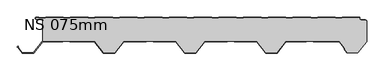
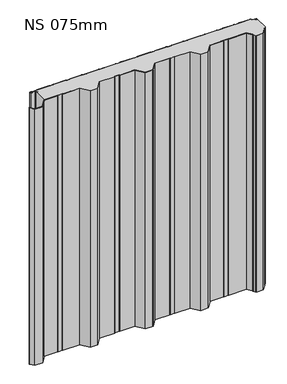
"""IFC4 building model written with IfcOpenShell, lengths in millimetres: plate geometry, KIP-MEX-KC-R19-CP-NS-SL : NS 075mm."""

from ifc_helpers import new_model, si_unit, point, frame, frame_2d, origin, origin_with_axes, place, context, project, spatial, polyline, circle_curve, trimmed, segment, composite_curve, outline, extrude, source, transform, mapped, element, save
from ifc_brep_helpers import plane_surface, cylinder_surface, revolved_surface, advanced_brep


def ns_075mm_65611ee8(model_context):
    return source(origin(), model_context, "Body", "SolidModel", [
        advanced_brep(
        [(489.051258, -85.0327477, 1224.3718713), (491.4166419, -80.6292245, 1224.3718713), (492.2982989, -81.1011177, 1224.3718713), (489.8911639, -85.5823669, 1224.3718713), (498.3652789, -74.7971296, 1224.3718713), (498.3666923, -11.2514375, 1224.3718713), (496.0840542, -13.6351997, 1224.3718713), (490.2938452, -14.1562355, 1224.3718713), (490.2059002, -13.178913, 1224.3718713), (495.9395891, -12.6629632, 1224.3718713), (497.3642752, -10.8760369, 1224.3718713), (495.9342793, -8.8936988, 1224.3718713), (479.8720443, -7.4885937, 1224.3718713), (477.1334803, -4.5000049, 1224.3718713), (477.1334803, -1.0, 1224.3718713), (424.1786391, -1.0, 1224.3718713), (422.7930062, -2.2002307, 1224.3718713), (403.4178399, -2.2002307, 1224.3718713), (402.0322069, -1.0, 1224.3718713), (347.9787915, -1.0, 1224.3718713), (346.5931586, -2.2002307, 1224.3718713), (327.2179923, -2.2002307, 1224.3718713), (325.8323593, -1.0, 1224.3718713), (271.7789439, -1.0, 1224.3718713), (270.393311, -2.2002307, 1224.3718713), (251.0181447, -2.2002307, 1224.3718713), (249.6325117, -1.0, 1224.3718713), (195.5790963, -1.0, 1224.3718713), (194.1934634, -2.2002307, 1224.3718713), (174.8182971, -2.2002307, 1224.3718713), (173.4326641, -1.0, 1224.3718713), (119.3792487, -1.0, 1224.3718713), (117.9936158, -2.2002307, 1224.3718713), (98.6184495, -2.2002307, 1224.3718713), (97.2328165, -1.0, 1224.3718713), (43.1794011, -1.0, 1224.3718713), (41.7937682, -2.2002307, 1224.3718713), (22.4186019, -2.2002307, 1224.3718713), (21.0329689, -1.0, 1224.3718713), (-33.0204465, -1.0, 1224.3718713), (-34.4060794, -2.2002307, 1224.3718713), (-53.7812457, -2.2002307, 1224.3718713), (-55.1668787, -1.0, 1224.3718713), (-109.2202941, -1.0, 1224.3718713), (-110.605927, -2.2002307, 1224.3718713), (-129.9810933, -2.2002307, 1224.3718713), (-131.3667263, -1.0, 1224.3718713), (-185.4201417, -1.0, 1224.3718713), (-186.8057746, -2.2002307, 1224.3718713), (-206.1809409, -2.2002307, 1224.3718713), (-207.5665739, -1.0, 1224.3718713), (-261.6199893, -1.0, 1224.3718713), (-263.0056222, -2.2002307, 1224.3718713), (-282.3807885, -2.2002307, 1224.3718713), (-283.7664215, -1.0, 1224.3718713), (-337.8198369, -1.0, 1224.3718713), (-339.2054698, -2.2002307, 1224.3718713), (-358.5806361, -2.2002307, 1224.3718713), (-359.9662691, -1.0, 1224.3718713), (-414.0196845, -1.0, 1224.3718713), (-415.4053174, -2.2002307, 1224.3718713), (-434.7804837, -2.2002307, 1224.3718713), (-436.1661167, -1.0, 1224.3718713), (-490.2195321, -1.0, 1224.3718713), (-491.605165, -2.2002307, 1224.3718713), (-510.9803313, -2.2002307, 1224.3718713), (-512.365974, -0.9999916, 1224.3718713), (-520.8675386, -0.9999916, 1224.3718713), (-520.8675386, -2.4999198, 1224.3718713), (-518.3676343, -4.9998241, 1224.3718713), (-500.3670493, -4.9998241, 1224.3718713), (-497.3666912, -7.998082, 1224.3718713), (-497.3666912, -11.5943952, 1224.3718713), (-496.1253972, -13.0725686, 1224.3718713), (-492.5830624, -13.6943971, 1224.3718713), (-492.7559608, -14.6793372, 1224.3718713), (-496.2982963, -14.0575086, 1224.3718713), (-498.3666923, -11.5958694, 1224.3718713), (-498.3666923, -74.0, 1224.3718713), (-437.8440582, -74.0, 1224.3718713), (-436.4297751, -72.9999989, 1224.3718713), (-417.2222535, -72.9999989, 1224.3718713), (-415.8079704, -74.0, 1224.3718713), (-339.3089934, -74.0, 1224.3718713), (-311.8089635, -109.000038, 1224.3718713), (-277.7809961, -109.000038, 1224.3718713), (-250.2809663, -74.0, 1224.3718713), (-180.8128881, -74.0, 1224.3718713), (-179.398605, -72.9999989, 1224.3718713), (-160.1910833, -72.9999989, 1224.3718713), (-158.7768003, -74.0, 1224.3718713), (-89.3087221, -74.0, 1224.3718713), (-61.8086922, -109.000038, 1224.3718713), (-27.7807248, -109.000038, 1224.3718713), (-0.280695, -74.0, 1224.3718713), (69.1090864, -74.0, 1224.3718713), (70.1732653, -72.9999989, 1224.3718713), (89.809188, -72.9999989, 1224.3718713), (91.2234711, -74.0, 1224.3718713), (160.6915492, -74.0, 1224.3718713), (188.1915791, -109.000038, 1224.3718713), (222.2195465, -109.000038, 1224.3718713), (249.7195763, -74.0, 1224.3718713), (312.1567557, -74.0, 1224.3718713), (313.5710388, -72.9999989, 1224.3718713), (332.7785605, -72.9999989, 1224.3718713), (334.1928435, -74.0, 1224.3718713), (414.6918249, -74.0, 1224.3718713), (430.7058064, -94.3814311, 1224.3718713), (430.7058064, -98.199617, 1224.3718713), (438.4061363, -108.0000369, 1224.3718713), (471.0055308, -108.0000369, 1224.3718713), (489.051258, -85.0327477, 0.0), (471.0055308, -108.0000369, 0.0), (438.4061363, -108.0000369, 0.0), (430.7058064, -98.199617, 0.0), (430.7058064, -94.3814311, 0.0), (414.6918249, -74.0, 0.0), (334.1928435, -74.0, 0.0), (332.7785605, -72.9999989, 0.0), (313.5710388, -72.9999989, 0.0), (312.1567557, -74.0, 0.0), (249.7195763, -74.0, 0.0), (222.2195465, -109.000038, 0.0), (188.1915791, -109.000038, 0.0), (160.6915492, -74.0, 0.0), (91.2234711, -74.0, 0.0), (89.809188, -72.9999989, 0.0), (70.1732653, -72.9999989, 0.0), (69.1090864, -74.0, 0.0), (-0.280695, -74.0, 0.0), (-27.7807248, -109.000038, 0.0), (-61.8086922, -109.000038, 0.0), (-89.3087221, -74.0, 0.0), (-158.7768003, -74.0, 0.0), (-160.1910833, -72.9999989, 0.0), (-179.398605, -72.9999989, 0.0), (-180.8128881, -74.0, 0.0), (-250.2809663, -74.0, 0.0), (-277.7809961, -109.000038, 0.0), (-311.8089635, -109.000038, 0.0), (-339.3089934, -74.0, 0.0), (-415.8079704, -74.0, 0.0), (-417.2222535, -72.9999989, 0.0), (-436.4297751, -72.9999989, 0.0), (-437.8440582, -74.0, 0.0), (-498.3666923, -74.0, 0.0), (-498.3666923, -11.5958694, 0.0), (-496.2982963, -14.0575086, 0.0), (-492.7559608, -14.6793372, 0.0), (-492.5830624, -13.6943971, 0.0), (-496.1253972, -13.0725686, 0.0), (-497.3666912, -11.5943952, 0.0), (-497.3666912, -7.998082, 0.0), (-500.3670493, -4.9998241, 0.0), (-518.3676343, -4.9998241, 0.0), (-520.8675386, -2.4999198, 0.0), (-520.8675386, -0.9999916, 0.0), (-512.365974, -0.9999916, 0.0), (-510.9803313, -2.2002307, 0.0), (-491.605165, -2.2002307, 0.0), (-490.2195321, -1.0, 0.0), (-436.1661167, -1.0, 0.0), (-434.7804837, -2.2002307, 0.0), (-415.4053174, -2.2002307, 0.0), (-414.0196845, -1.0, 0.0), (-359.9662691, -1.0, 0.0), (-358.5806361, -2.2002307, 0.0), (-339.2054698, -2.2002307, 0.0), (-337.8198369, -1.0, 0.0), (-283.7664215, -1.0, 0.0), (-282.3807885, -2.2002307, 0.0), (-263.0056222, -2.2002307, 0.0), (-261.6199893, -1.0, 0.0), (-207.5665739, -1.0, 0.0), (-206.1809409, -2.2002307, 0.0), (-186.8057746, -2.2002307, 0.0), (-185.4201417, -1.0, 0.0), (-131.3667263, -1.0, 0.0), (-129.9810933, -2.2002307, 0.0), (-110.605927, -2.2002307, 0.0), (-109.2202941, -1.0, 0.0), (-55.1668787, -1.0, 0.0), (-53.7812457, -2.2002307, 0.0), (-34.4060794, -2.2002307, 0.0), (-33.0204465, -1.0, 0.0), (21.0329689, -1.0, 0.0), (22.4186019, -2.2002307, 0.0), (41.7937682, -2.2002307, 0.0), (43.1794011, -1.0, 0.0), (97.2328165, -1.0, 0.0), (98.6184495, -2.2002307, 0.0), (117.9936158, -2.2002307, 0.0), (119.3792487, -1.0, 0.0), (173.4326641, -1.0, 0.0), (174.8182971, -2.2002307, 0.0), (194.1934634, -2.2002307, 0.0), (195.5790963, -1.0, 0.0), (249.6325117, -1.0, 0.0), (251.0181447, -2.2002307, 0.0), (270.393311, -2.2002307, 0.0), (271.7789439, -1.0, 0.0), (325.8323593, -1.0, 0.0), (327.2179923, -2.2002307, 0.0), (346.5931586, -2.2002307, 0.0), (347.9787915, -1.0, 0.0), (402.0322069, -1.0, 0.0), (403.4178399, -2.2002307, 0.0), (422.7930062, -2.2002307, 0.0), (424.1786391, -1.0, 0.0), (477.1334803, -1.0, 0.0), (477.1334803, -4.5000049, 0.0), (479.8720443, -7.4885937, 0.0), (495.9342793, -8.8936988, 0.0), (497.3642752, -10.8760369, 0.0), (495.9395891, -12.6629632, 0.0), (490.2059002, -13.178913, 0.0), (490.2938452, -14.1562355, 0.0), (496.0840542, -13.6351997, 0.0), (498.3666923, -11.2514375, 0.0), (498.3652789, -74.7971296, 0.0), (489.8911639, -85.5823669, 0.0), (492.2982989, -81.1011177, 0.0), (491.4166419, -80.6292245, 0.0)],
        [
            (0, 1),
            (1, 2),
            (2, 3),
            (3, 4),
            (4, 5),
            (5, 6, circle_curve(frame((495.5554081, -10.8441969, 1224.3718713), z_axis=(0.0, 0.0, -1.0), x_axis=(0.0, -1.0, 0.0)), 2.8406273)),
            (6, 7),
            (7, 8),
            (8, 9),
            (9, 10, circle_curve(frame((495.560247, -10.8991179, 1224.3718713), z_axis=(0.0, 0.0, 1.0), x_axis=(0.0, -1.0, 0.0)), 1.8041759)),
            (10, 11, circle_curve(frame((495.5292107, -10.6928483, 1224.3718713), z_axis=(0.0, 0.0, 1.0), x_axis=(0.0, -1.0, 0.0)), 1.8441854)),
            (11, 12),
            (12, 13, circle_curve(frame((480.1334825, -4.5000049, 1224.3718713), z_axis=(0.0, 0.0, -1.0), x_axis=(0.0, -1.0, 0.0)), 3.0000022)),
            (13, 14),
            (14, 15),
            (15, 16),
            (16, 17),
            (17, 18),
            (18, 19),
            (19, 20),
            (20, 21),
            (21, 22),
            (22, 23),
            (23, 24),
            (24, 25),
            (25, 26),
            (26, 27),
            (27, 28),
            (28, 29),
            (29, 30),
            (30, 31),
            (31, 32),
            (32, 33),
            (33, 34),
            (34, 35),
            (35, 36),
            (36, 37),
            (37, 38),
            (38, 39),
            (39, 40),
            (40, 41),
            (41, 42),
            (42, 43),
            (43, 44),
            (44, 45),
            (45, 46),
            (46, 47),
            (47, 48),
            (48, 49),
            (49, 50),
            (50, 51),
            (51, 52),
            (52, 53),
            (53, 54),
            (54, 55),
            (55, 56),
            (56, 57),
            (57, 58),
            (58, 59),
            (59, 60),
            (60, 61),
            (61, 62),
            (62, 63),
            (63, 64),
            (64, 65),
            (65, 66),
            (66, 67),
            (67, 68),
            (68, 69, circle_curve(frame((-518.3676343, -2.4999198, 1224.3718713), z_axis=(0.0, 0.0, 1.0), x_axis=(0.0, -1.0, 0.0)), 2.4999043)),
            (69, 70),
            (70, 71, circle_curve(frame((-500.3670493, -8.0001829, 1224.3718713), z_axis=(0.0, 0.0, -1.0), x_axis=(0.0, -1.0, 0.0)), 3.0003589)),
            (71, 72),
            (72, 73, circle_curve(frame((-495.8659157, -11.5943952, 1224.3718713), z_axis=(0.0, 0.0, 1.0), x_axis=(0.0, -1.0, 0.0)), 1.5007755)),
            (73, 74),
            (74, 75),
            (75, 76),
            (76, 77, circle_curve(frame((-495.8659164, -11.5943948, 1224.3718713), z_axis=(0.0, 0.0, -1.0), x_axis=(0.0, -1.0, 0.0)), 2.5007762)),
            (77, 78),
            (78, 79),
            (79, 80),
            (80, 81),
            (81, 82),
            (82, 83),
            (83, 84),
            (84, 85),
            (85, 86),
            (86, 87),
            (87, 88),
            (88, 89),
            (89, 90),
            (90, 91),
            (91, 92),
            (92, 93),
            (93, 94),
            (94, 95),
            (95, 96),
            (96, 97),
            (97, 98),
            (98, 99),
            (99, 100),
            (100, 101),
            (101, 102),
            (102, 103),
            (103, 104),
            (104, 105),
            (105, 106),
            (106, 107),
            (107, 108),
            (108, 109),
            (109, 110),
            (110, 111),
            (111, 0),
            (112, 113),
            (113, 114),
            (114, 115),
            (115, 116),
            (116, 117),
            (117, 118),
            (118, 119),
            (119, 120),
            (120, 121),
            (121, 122),
            (122, 123),
            (123, 124),
            (124, 125),
            (125, 126),
            (126, 127),
            (127, 128),
            (128, 129),
            (129, 130),
            (130, 131),
            (131, 132),
            (132, 133),
            (133, 134),
            (134, 135),
            (135, 136),
            (136, 137),
            (137, 138),
            (138, 139),
            (139, 140),
            (140, 141),
            (141, 142),
            (142, 143),
            (143, 144),
            (144, 145),
            (145, 146),
            (146, 147),
            (147, 148, circle_curve(frame((-495.8659164, -11.5943948, 0.0), z_axis=(0.0, 0.0, 1.0), x_axis=(0.0, -1.0, 0.0)), 2.5007762)),
            (148, 149),
            (149, 150),
            (150, 151),
            (151, 152, circle_curve(frame((-495.8659157, -11.5943952, 0.0), z_axis=(0.0, 0.0, -1.0), x_axis=(0.0, -1.0, 0.0)), 1.5007755)),
            (152, 153),
            (153, 154, circle_curve(frame((-500.3670493, -8.0001829, 0.0), z_axis=(0.0, 0.0, 1.0), x_axis=(0.0, -1.0, 0.0)), 3.0003589)),
            (154, 155),
            (155, 156, circle_curve(frame((-518.3676343, -2.4999198, 0.0), z_axis=(0.0, 0.0, -1.0), x_axis=(0.0, -1.0, 0.0)), 2.4999043)),
            (156, 157),
            (157, 158),
            (158, 159),
            (159, 160),
            (160, 161),
            (161, 162),
            (162, 163),
            (163, 164),
            (164, 165),
            (165, 166),
            (166, 167),
            (167, 168),
            (168, 169),
            (169, 170),
            (170, 171),
            (171, 172),
            (172, 173),
            (173, 174),
            (174, 175),
            (175, 176),
            (176, 177),
            (177, 178),
            (178, 179),
            (179, 180),
            (180, 181),
            (181, 182),
            (182, 183),
            (183, 184),
            (184, 185),
            (185, 186),
            (186, 187),
            (187, 188),
            (188, 189),
            (189, 190),
            (190, 191),
            (191, 192),
            (192, 193),
            (193, 194),
            (194, 195),
            (195, 196),
            (196, 197),
            (197, 198),
            (198, 199),
            (199, 200),
            (200, 201),
            (201, 202),
            (202, 203),
            (203, 204),
            (204, 205),
            (205, 206),
            (206, 207),
            (207, 208),
            (208, 209),
            (209, 210),
            (210, 211),
            (211, 212, circle_curve(frame((480.1334825, -4.5000049, 0.0), z_axis=(0.0, 0.0, 1.0), x_axis=(0.0, -1.0, 0.0)), 3.0000022)),
            (212, 213),
            (213, 214, circle_curve(frame((495.5292107, -10.6928483, 0.0), z_axis=(0.0, 0.0, -1.0), x_axis=(0.0, -1.0, 0.0)), 1.8441854)),
            (214, 215, circle_curve(frame((495.560247, -10.8991179, 0.0), z_axis=(0.0, 0.0, -1.0), x_axis=(0.0, -1.0, 0.0)), 1.8041759)),
            (215, 216),
            (216, 217),
            (217, 218),
            (218, 219, circle_curve(frame((495.5554081, -10.8441969, 0.0), z_axis=(0.0, 0.0, 1.0), x_axis=(0.0, -1.0, 0.0)), 2.8406273)),
            (219, 220),
            (220, 221),
            (221, 222),
            (222, 223),
            (223, 112),
            (0, 112),
            (223, 1),
            (111, 113),
            (110, 114),
            (109, 115),
            (108, 116),
            (107, 117),
            (106, 118),
            (105, 119),
            (104, 120),
            (103, 121),
            (102, 122),
            (101, 123),
            (100, 124),
            (99, 125),
            (98, 126),
            (97, 127),
            (96, 128),
            (95, 129),
            (94, 130),
            (93, 131),
            (92, 132),
            (91, 133),
            (90, 134),
            (89, 135),
            (88, 136),
            (87, 137),
            (86, 138),
            (85, 139),
            (84, 140),
            (83, 141),
            (82, 142),
            (81, 143),
            (80, 144),
            (79, 145),
            (78, 146),
            (2, 222),
            (221, 3),
            (220, 4),
            (219, 5),
            (77, 147),
            (73, 151),
            (150, 74),
            (72, 152),
            (71, 153),
            (70, 154),
            (69, 155),
            (68, 156),
            (67, 157),
            (13, 211),
            (210, 14),
            (12, 212),
            (11, 213),
            (10, 214),
            (9, 215),
            (8, 216),
            (7, 217),
            (6, 218),
            (76, 148),
            (75, 149),
            (66, 158),
            (65, 159),
            (64, 160),
            (63, 161),
            (62, 162),
            (61, 163),
            (60, 164),
            (59, 165),
            (58, 166),
            (57, 167),
            (56, 168),
            (55, 169),
            (54, 170),
            (53, 171),
            (52, 172),
            (51, 173),
            (50, 174),
            (49, 175),
            (48, 176),
            (47, 177),
            (46, 178),
            (45, 179),
            (44, 180),
            (43, 181),
            (42, 182),
            (41, 183),
            (40, 184),
            (39, 185),
            (38, 186),
            (37, 187),
            (36, 188),
            (35, 189),
            (34, 190),
            (33, 191),
            (32, 192),
            (31, 193),
            (30, 194),
            (29, 195),
            (28, 196),
            (27, 197),
            (26, 198),
            (25, 199),
            (24, 200),
            (23, 201),
            (22, 202),
            (21, 203),
            (20, 204),
            (19, 205),
            (18, 206),
            (17, 207),
            (16, 208),
            (15, 209),
        ],
        [
            plane_surface(frame((0.0, -74.0, 1224.3718713), z_axis=(0.0, 0.0, 1.0), x_axis=(0.0, -1.0, 0.0))),
            plane_surface(frame((0.0, -74.0, 0.0), z_axis=(0.0, 0.0, -1.0), x_axis=(0.0, -1.0, 0.0))),
            plane_surface(frame((491.4166419, -80.6292245, 1224.3718713), z_axis=(0.8809503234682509, -0.4732087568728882, 0.0), x_axis=(0.0, 0.0, -1.0))),
            plane_surface(frame((489.051258, -85.0327477, 1224.3718713), z_axis=(0.7863183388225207, -0.6178215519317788, 0.0), x_axis=(0.0, 0.0, -1.0))),
            plane_surface(frame((471.0055308, -108.0000369, 1224.3718713), z_axis=(0.0, -1.0, 0.0), x_axis=(0.0, 0.0, -1.0))),
            plane_surface(frame((438.4061363, -108.0000369, 1224.3718713), z_axis=(-0.7863183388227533, -0.6178215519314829, 0.0), x_axis=(0.0, 0.0, -1.0))),
            plane_surface(frame((430.7058064, -98.199617, 1224.3718713), z_axis=(-1.0, 0.0, 0.0), x_axis=(0.0, 0.0, -1.0))),
            plane_surface(frame((430.7058064, -94.3814311, 1224.3718713), z_axis=(-0.7863183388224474, -0.6178215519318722, 0.0), x_axis=(0.0, 0.0, -1.0))),
            plane_surface(frame((414.6918249, -74.0, 1224.3718713), z_axis=(0.0, -1.0, 0.0), x_axis=(0.0, 0.0, -1.0))),
            plane_surface(frame((334.1928435, -74.0, 1224.3718713), z_axis=(-0.5773317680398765, -0.8165096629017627, 0.0), x_axis=(0.0, 0.0, -1.0))),
            plane_surface(frame((332.7785605, -72.9999989, 1224.3718713), z_axis=(0.0, -1.0, 0.0), x_axis=(0.0, 0.0, -1.0))),
            plane_surface(frame((313.5710388, -72.9999989, 1224.3718713), z_axis=(0.5773317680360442, -0.8165096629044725, 0.0), x_axis=(0.0, 0.0, -1.0))),
            plane_surface(frame((312.1567557, -74.0, 1224.3718713), z_axis=(0.0, -1.0, 0.0), x_axis=(0.0, 0.0, -1.0))),
            plane_surface(frame((249.7195763, -74.0, 1224.3718713), z_axis=(0.7863183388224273, -0.6178215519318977, 0.0), x_axis=(0.0, 0.0, -1.0))),
            plane_surface(frame((222.2195465, -109.000038, 1224.3718713), z_axis=(0.0, -1.0, 0.0), x_axis=(0.0, 0.0, -1.0))),
            plane_surface(frame((188.1915791, -109.000038, 1224.3718713), z_axis=(-0.7863183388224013, -0.6178215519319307, 0.0), x_axis=(0.0, 0.0, -1.0))),
            plane_surface(frame((160.6915492, -74.0, 1224.3718713), z_axis=(0.0, -1.0, 0.0), x_axis=(0.0, 0.0, -1.0))),
            plane_surface(frame((91.2234711, -74.0, 1224.3718713), z_axis=(-0.5773317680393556, -0.8165096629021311, 0.0), x_axis=(0.0, 0.0, -1.0))),
            plane_surface(frame((89.809188, -72.9999989, 1224.3718713), z_axis=(0.0, -1.0, 0.0), x_axis=(0.0, 0.0, -1.0))),
            plane_surface(frame((70.1732653, -72.9999989, 1224.3718713), z_axis=(0.6847910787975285, -0.7287394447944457, 0.0), x_axis=(0.0, 0.0, -1.0))),
            plane_surface(frame((69.1090864, -74.0, 1224.3718713), z_axis=(0.0, -1.0, 0.0), x_axis=(0.0, 0.0, -1.0))),
            plane_surface(frame((-0.280695, -74.0, 1224.3718713), z_axis=(0.7863183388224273, -0.6178215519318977, 0.0), x_axis=(0.0, 0.0, -1.0))),
            plane_surface(frame((-27.7807248, -109.000038, 1224.3718713), z_axis=(0.0, -1.0, 0.0), x_axis=(0.0, 0.0, -1.0))),
            plane_surface(frame((-61.8086922, -109.000038, 1224.3718713), z_axis=(-0.786318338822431, -0.617821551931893, 0.0), x_axis=(0.0, 0.0, -1.0))),
            plane_surface(frame((-89.3087221, -74.0, 1224.3718713), z_axis=(0.0, -1.0, 0.0), x_axis=(0.0, 0.0, -1.0))),
            plane_surface(frame((-158.7768003, -74.0, 1224.3718713), z_axis=(-0.5773317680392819, -0.8165096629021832, 0.0), x_axis=(0.0, 0.0, -1.0))),
            plane_surface(frame((-160.1910833, -72.9999989, 1224.3718713), z_axis=(0.0, -1.0, 0.0), x_axis=(0.0, 0.0, -1.0))),
            plane_surface(frame((-179.398605, -72.9999989, 1224.3718713), z_axis=(0.577331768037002, -0.8165096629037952, 0.0), x_axis=(0.0, 0.0, -1.0))),
            plane_surface(frame((-180.8128881, -74.0, 1224.3718713), z_axis=(0.0, -1.0, 0.0), x_axis=(0.0, 0.0, -1.0))),
            plane_surface(frame((-250.2809663, -74.0, 1224.3718713), z_axis=(0.7863183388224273, -0.6178215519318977, 0.0), x_axis=(0.0, 0.0, -1.0))),
            plane_surface(frame((-277.7809961, -109.000038, 1224.3718713), z_axis=(0.0, -1.0, 0.0), x_axis=(0.0, 0.0, -1.0))),
            plane_surface(frame((-311.8089635, -109.000038, 1224.3718713), z_axis=(-0.7863183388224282, -0.6178215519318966, 0.0), x_axis=(0.0, 0.0, -1.0))),
            plane_surface(frame((-339.3089934, -74.0, 1224.3718713), z_axis=(0.0, -1.0, 0.0), x_axis=(0.0, 0.0, -1.0))),
            plane_surface(frame((-415.8079704, -74.0, 1224.3718713), z_axis=(-0.577331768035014, -0.8165096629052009, 0.0), x_axis=(0.0, 0.0, -1.0))),
            plane_surface(frame((-417.2222535, -72.9999989, 1224.3718713), z_axis=(0.0, -1.0, 0.0), x_axis=(0.0, 0.0, -1.0))),
            plane_surface(frame((-436.4297751, -72.9999989, 1224.3718713), z_axis=(0.577331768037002, -0.8165096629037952, 0.0), x_axis=(0.0, 0.0, -1.0))),
            plane_surface(frame((-437.8440582, -74.0, 1224.3718713), z_axis=(0.0, -1.0, 0.0), x_axis=(0.0, 0.0, -1.0))),
            plane_surface(frame((489.8911639, -85.5823669, 1224.3718713), z_axis=(-0.8809503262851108, 0.4732087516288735, 0.0), x_axis=(0.0, 0.0, -1.0))),
            plane_surface(frame((492.2982989, -81.1011177, 1224.3718713), z_axis=(-0.4718927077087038, -0.8816559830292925, 0.0), x_axis=(0.0, 0.0, -1.0))),
            plane_surface(frame((498.3652789, -74.7971296, 1224.3718713), z_axis=(0.7863183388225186, -0.6178215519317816, 0.0), x_axis=(0.0, 0.0, -1.0))),
            plane_surface(frame((498.3652789, -69.8065083, 1224.3718713), z_axis=(1.0, 0.0, 0.0), x_axis=(0.0, 0.0, -1.0))),
            plane_surface(frame((-498.3666923, -74.0, 1224.3718713), z_axis=(-1.0, 0.0, 0.0), x_axis=(0.0, 0.0, -1.0))),
            plane_surface(frame((-492.5830624, -13.6943971, 1224.3718713), z_axis=(-0.17289827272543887, -0.9849396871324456, 0.0), x_axis=(0.0, 0.0, -1.0))),
            cylinder_surface(frame((-495.8659157, -11.5943952, 1224.3718713), z_axis=(0.0, 0.0, 1.0), x_axis=(0.0, -1.0, 0.0)), 1.5007755),
            plane_surface(frame((-497.3666912, -11.5943952, 1224.3718713), z_axis=(-1.0, 0.0, 0.0), x_axis=(0.0, 0.0, -1.0))),
            revolved_surface(polyline([(-500.3670493, -11.0005418, 0.0), (-500.3670493, -11.0005418, 1224.3718713)]), (-500.3670493, -8.0001829, 1224.3718713), (0.0, 0.0, -1.0)),
            plane_surface(frame((-500.3670493, -4.9998241, 1224.3718713), z_axis=(0.0, -1.0, 0.0), x_axis=(0.0, 0.0, -1.0))),
            cylinder_surface(frame((-518.3676343, -2.4999198, 1224.3718713), z_axis=(0.0, 0.0, 1.0), x_axis=(0.0, -1.0, 0.0)), 2.4999043),
            plane_surface(frame((-520.8675386, -2.4999198, 1224.3718713), z_axis=(-1.0, 0.0, 0.0), x_axis=(0.0, 0.0, -1.0))),
            plane_surface(frame((477.1334803, -1.0, 1224.3718713), z_axis=(1.0, 0.0, 0.0), x_axis=(0.0, 0.0, -1.0))),
            revolved_surface(polyline([(480.1334825, -7.5000071, 0.0), (480.1334825, -7.5000071, 1224.3718713)]), (480.1334825, -4.5000049, 1224.3718713), (0.0, 0.0, -1.0)),
            plane_surface(frame((479.8720443, -7.4885937, 1224.3718713), z_axis=(0.0871459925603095, 0.9961955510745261, 0.0), x_axis=(0.0, 0.0, -1.0))),
            cylinder_surface(frame((495.5292107, -10.6928483, 1224.3718713), z_axis=(0.0, 0.0, 1.0), x_axis=(0.0, -1.0, 0.0)), 1.8441854),
            cylinder_surface(frame((495.560247, -10.8991179, 1224.3718713), z_axis=(0.0, 0.0, 1.0), x_axis=(0.0, -1.0, 0.0)), 1.8041759),
            plane_surface(frame((495.9395891, -12.6629632, 1224.3718713), z_axis=(0.0896235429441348, -0.995975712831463, 0.0), x_axis=(0.0, 0.0, -1.0))),
            plane_surface(frame((490.2059002, -13.178913, 1224.3718713), z_axis=(0.9959757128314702, 0.08962354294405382, 0.0), x_axis=(0.0, 0.0, -1.0))),
            plane_surface(frame((490.2938452, -14.1562355, 1224.3718713), z_axis=(-0.0896235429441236, 0.995975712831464, 0.0), x_axis=(0.0, 0.0, -1.0))),
            revolved_surface(polyline([(495.5554081, -13.6848242, 0.0), (495.5554081, -13.6848242, 1224.3718713)]), (495.5554081, -10.8441969, 1224.3718713), (0.0, 0.0, -1.0)),
            revolved_surface(polyline([(-495.8659164, -14.095171, 0.0), (-495.8659164, -14.095171, 1224.3718713)]), (-495.8659164, -11.5943948, 1224.3718713), (0.0, 0.0, -1.0)),
            plane_surface(frame((-496.2982963, -14.0575086, 1224.3718713), z_axis=(0.17289827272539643, 0.9849396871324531, 0.0), x_axis=(0.0, 0.0, -1.0))),
            plane_surface(frame((-492.7559608, -14.6793372, 1224.3718713), z_axis=(-0.9849396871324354, 0.1728982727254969, 0.0), x_axis=(0.0, 0.0, -1.0))),
            plane_surface(frame((-520.8675386, -0.9999916, 1224.3718713), z_axis=(0.0, 1.0, 0.0), x_axis=(0.0, 0.0, -1.0))),
            plane_surface(frame((-512.365974, -0.9999916, 1224.3718713), z_axis=(0.6547276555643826, 0.7558648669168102, 0.0), x_axis=(0.0, 0.0, -1.0))),
            plane_surface(frame((-510.9803313, -2.2002307, 1224.3718713), z_axis=(0.0, 1.0, 0.0), x_axis=(0.0, 0.0, -1.0))),
            plane_surface(frame((-491.605165, -2.2002307, 1224.3718713), z_axis=(-0.6547276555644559, 0.7558648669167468, 0.0), x_axis=(0.0, 0.0, -1.0))),
            plane_surface(frame((-490.2195321, -1.0, 1224.3718713), z_axis=(0.0, 1.0, 0.0), x_axis=(0.0, 0.0, -1.0))),
            plane_surface(frame((-436.1661167, -1.0, 1224.3718713), z_axis=(0.6547276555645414, 0.7558648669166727, 0.0), x_axis=(0.0, 0.0, -1.0))),
            plane_surface(frame((-434.7804837, -2.2002307, 1224.3718713), z_axis=(0.0, 1.0, 0.0), x_axis=(0.0, 0.0, -1.0))),
            plane_surface(frame((-415.4053174, -2.2002307, 1224.3718713), z_axis=(-0.6547276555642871, 0.755864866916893, 0.0), x_axis=(0.0, 0.0, -1.0))),
            plane_surface(frame((-414.0196845, -1.0, 1224.3718713), z_axis=(0.0, 1.0, 0.0), x_axis=(0.0, 0.0, -1.0))),
            plane_surface(frame((-359.9662691, -1.0, 1224.3718713), z_axis=(0.6547276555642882, 0.7558648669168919, 0.0), x_axis=(0.0, 0.0, -1.0))),
            plane_surface(frame((-358.5806361, -2.2002307, 1224.3718713), z_axis=(0.0, 1.0, 0.0), x_axis=(0.0, 0.0, -1.0))),
            plane_surface(frame((-339.2054698, -2.2002307, 1224.3718713), z_axis=(-0.6547276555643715, 0.7558648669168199, 0.0), x_axis=(0.0, 0.0, -1.0))),
            plane_surface(frame((-337.8198369, -1.0, 1224.3718713), z_axis=(0.0, 1.0, 0.0), x_axis=(0.0, 0.0, -1.0))),
            plane_surface(frame((-283.7664215, -1.0, 1224.3718713), z_axis=(0.6547276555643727, 0.7558648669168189, 0.0), x_axis=(0.0, 0.0, -1.0))),
            plane_surface(frame((-282.3807885, -2.2002307, 1224.3718713), z_axis=(0.0, 1.0, 0.0), x_axis=(0.0, 0.0, -1.0))),
            plane_surface(frame((-263.0056222, -2.2002307, 1224.3718713), z_axis=(-0.6547276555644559, 0.7558648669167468, 0.0), x_axis=(0.0, 0.0, -1.0))),
            plane_surface(frame((-261.6199893, -1.0, 1224.3718713), z_axis=(0.0, 1.0, 0.0), x_axis=(0.0, 0.0, -1.0))),
            plane_surface(frame((-207.5665739, -1.0, 1224.3718713), z_axis=(0.654727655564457, 0.7558648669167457, 0.0), x_axis=(0.0, 0.0, -1.0))),
            plane_surface(frame((-206.1809409, -2.2002307, 1224.3718713), z_axis=(0.0, 1.0, 0.0), x_axis=(0.0, 0.0, -1.0))),
            plane_surface(frame((-186.8057746, -2.2002307, 1224.3718713), z_axis=(-0.6547276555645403, 0.7558648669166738, 0.0), x_axis=(0.0, 0.0, -1.0))),
            plane_surface(frame((-185.4201417, -1.0, 1224.3718713), z_axis=(0.0, 1.0, 0.0), x_axis=(0.0, 0.0, -1.0))),
            plane_surface(frame((-131.3667263, -1.0, 1224.3718713), z_axis=(0.6547276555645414, 0.7558648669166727, 0.0), x_axis=(0.0, 0.0, -1.0))),
            plane_surface(frame((-129.9810933, -2.2002307, 1224.3718713), z_axis=(0.0, 1.0, 0.0), x_axis=(0.0, 0.0, -1.0))),
            plane_surface(frame((-110.605927, -2.2002307, 1224.3718713), z_axis=(-0.6547276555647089, 0.7558648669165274, 0.0), x_axis=(0.0, 0.0, -1.0))),
            plane_surface(frame((-109.2202941, -1.0, 1224.3718713), z_axis=(0.0, 1.0, 0.0), x_axis=(0.0, 0.0, -1.0))),
            plane_surface(frame((-55.1668787, -1.0, 1224.3718713), z_axis=(0.6547276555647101, 0.7558648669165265, 0.0), x_axis=(0.0, 0.0, -1.0))),
            plane_surface(frame((-53.7812457, -2.2002307, 1224.3718713), z_axis=(0.0, 1.0, 0.0), x_axis=(0.0, 0.0, -1.0))),
            plane_surface(frame((-34.4060794, -2.2002307, 1224.3718713), z_axis=(-0.6547276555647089, 0.7558648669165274, 0.0), x_axis=(0.0, 0.0, -1.0))),
            plane_surface(frame((-33.0204465, -1.0, 1224.3718713), z_axis=(0.0, 1.0, 0.0), x_axis=(0.0, 0.0, -1.0))),
            plane_surface(frame((21.0329689, -1.0, 1224.3718713), z_axis=(0.6547276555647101, 0.7558648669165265, 0.0), x_axis=(0.0, 0.0, -1.0))),
            plane_surface(frame((22.4186019, -2.2002307, 1224.3718713), z_axis=(0.0, 1.0, 0.0), x_axis=(0.0, 0.0, -1.0))),
            plane_surface(frame((41.7937682, -2.2002307, 1224.3718713), z_axis=(-0.6547276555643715, 0.7558648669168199, 0.0), x_axis=(0.0, 0.0, -1.0))),
            plane_surface(frame((43.1794011, -1.0, 1224.3718713), z_axis=(0.0, 1.0, 0.0), x_axis=(0.0, 0.0, -1.0))),
            plane_surface(frame((97.2328165, -1.0, 1224.3718713), z_axis=(0.6547276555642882, 0.7558648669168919, 0.0), x_axis=(0.0, 0.0, -1.0))),
            plane_surface(frame((98.6184495, -2.2002307, 1224.3718713), z_axis=(0.0, 1.0, 0.0), x_axis=(0.0, 0.0, -1.0))),
            plane_surface(frame((117.9936158, -2.2002307, 1224.3718713), z_axis=(-0.6547276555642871, 0.755864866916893, 0.0), x_axis=(0.0, 0.0, -1.0))),
            plane_surface(frame((119.3792487, -1.0, 1224.3718713), z_axis=(0.0, 1.0, 0.0), x_axis=(0.0, 0.0, -1.0))),
            plane_surface(frame((173.4326641, -1.0, 1224.3718713), z_axis=(0.6547276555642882, 0.7558648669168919, 0.0), x_axis=(0.0, 0.0, -1.0))),
            plane_surface(frame((174.8182971, -2.2002307, 1224.3718713), z_axis=(0.0, 1.0, 0.0), x_axis=(0.0, 0.0, -1.0))),
            plane_surface(frame((194.1934634, -2.2002307, 1224.3718713), z_axis=(-0.6547276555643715, 0.7558648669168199, 0.0), x_axis=(0.0, 0.0, -1.0))),
            plane_surface(frame((195.5790963, -1.0, 1224.3718713), z_axis=(0.0, 1.0, 0.0), x_axis=(0.0, 0.0, -1.0))),
            plane_surface(frame((249.6325117, -1.0, 1224.3718713), z_axis=(0.6547276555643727, 0.7558648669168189, 0.0), x_axis=(0.0, 0.0, -1.0))),
            plane_surface(frame((251.0181447, -2.2002307, 1224.3718713), z_axis=(0.0, 1.0, 0.0), x_axis=(0.0, 0.0, -1.0))),
            plane_surface(frame((270.393311, -2.2002307, 1224.3718713), z_axis=(-0.6547276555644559, 0.7558648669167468, 0.0), x_axis=(0.0, 0.0, -1.0))),
            plane_surface(frame((271.7789439, -1.0, 1224.3718713), z_axis=(0.0, 1.0, 0.0), x_axis=(0.0, 0.0, -1.0))),
            plane_surface(frame((325.8323593, -1.0, 1224.3718713), z_axis=(0.654727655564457, 0.7558648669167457, 0.0), x_axis=(0.0, 0.0, -1.0))),
            plane_surface(frame((327.2179923, -2.2002307, 1224.3718713), z_axis=(0.0, 1.0, 0.0), x_axis=(0.0, 0.0, -1.0))),
            plane_surface(frame((346.5931586, -2.2002307, 1224.3718713), z_axis=(-0.6547276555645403, 0.7558648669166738, 0.0), x_axis=(0.0, 0.0, -1.0))),
            plane_surface(frame((347.9787915, -1.0, 1224.3718713), z_axis=(0.0, 1.0, 0.0), x_axis=(0.0, 0.0, -1.0))),
            plane_surface(frame((402.0322069, -1.0, 1224.3718713), z_axis=(0.6547276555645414, 0.7558648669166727, 0.0), x_axis=(0.0, 0.0, -1.0))),
            plane_surface(frame((403.4178399, -2.2002307, 1224.3718713), z_axis=(0.0, 1.0, 0.0), x_axis=(0.0, 0.0, -1.0))),
            plane_surface(frame((422.7930062, -2.2002307, 1224.3718713), z_axis=(-0.6547276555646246, 0.7558648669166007, 0.0), x_axis=(0.0, 0.0, -1.0))),
            plane_surface(frame((424.1786391, -1.0, 1224.3718713), z_axis=(0.0, 1.0, 0.0), x_axis=(0.0, 0.0, -1.0))),
        ],
        [
            (0, [[1, 2, 3, 4, 5, 6, 7, 8, 9, 10, 11, 12, 13, 14, 15, 16, 17, 18, 19, 20, 21, 22, 23, 24, 25, 26, 27, 28, 29, 30, 31, 32, 33, 34, 35, 36, 37, 38, 39, 40, 41, 42, 43, 44, 45, 46, 47, 48, 49, 50, 51, 52, 53, 54, 55, 56, 57, 58, 59, 60, 61, 62, 63, 64, 65, 66, 67, 68, 69, 70, 71, 72, 73, 74, 75, 76, 77, 78, 79, 80, 81, 82, 83, 84, 85, 86, 87, 88, 89, 90, 91, 92, 93, 94, 95, 96, 97, 98, 99, 100, 101, 102, 103, 104, 105, 106, 107, 108, 109, 110, 111, 112]]),
            (1, [[113, 114, 115, 116, 117, 118, 119, 120, 121, 122, 123, 124, 125, 126, 127, 128, 129, 130, 131, 132, 133, 134, 135, 136, 137, 138, 139, 140, 141, 142, 143, 144, 145, 146, 147, 148, 149, 150, 151, 152, 153, 154, 155, 156, 157, 158, 159, 160, 161, 162, 163, 164, 165, 166, 167, 168, 169, 170, 171, 172, 173, 174, 175, 176, 177, 178, 179, 180, 181, 182, 183, 184, 185, 186, 187, 188, 189, 190, 191, 192, 193, 194, 195, 196, 197, 198, 199, 200, 201, 202, 203, 204, 205, 206, 207, 208, 209, 210, 211, 212, 213, 214, 215, 216, 217, 218, 219, 220, 221, 222, 223, 224]]),
            (2, [[225, -224, 226, -1]]),
            (3, [[227, -113, -225, -112]]),
            (4, [[228, -114, -227, -111]]),
            (5, [[229, -115, -228, -110]]),
            (6, [[230, -116, -229, -109]]),
            (7, [[231, -117, -230, -108]]),
            (8, [[232, -118, -231, -107]]),
            (9, [[233, -119, -232, -106]]),
            (10, [[234, -120, -233, -105]]),
            (11, [[235, -121, -234, -104]]),
            (12, [[236, -122, -235, -103]]),
            (13, [[237, -123, -236, -102]]),
            (14, [[238, -124, -237, -101]]),
            (15, [[239, -125, -238, -100]]),
            (16, [[240, -126, -239, -99]]),
            (17, [[241, -127, -240, -98]]),
            (18, [[242, -128, -241, -97]]),
            (19, [[243, -129, -242, -96]]),
            (20, [[244, -130, -243, -95]]),
            (21, [[245, -131, -244, -94]]),
            (22, [[246, -132, -245, -93]]),
            (23, [[247, -133, -246, -92]]),
            (24, [[248, -134, -247, -91]]),
            (25, [[249, -135, -248, -90]]),
            (26, [[250, -136, -249, -89]]),
            (27, [[251, -137, -250, -88]]),
            (28, [[252, -138, -251, -87]]),
            (29, [[253, -139, -252, -86]]),
            (30, [[254, -140, -253, -85]]),
            (31, [[255, -141, -254, -84]]),
            (32, [[256, -142, -255, -83]]),
            (33, [[257, -143, -256, -82]]),
            (34, [[258, -144, -257, -81]]),
            (35, [[259, -145, -258, -80]]),
            (36, [[260, -146, -259, -79]]),
            (37, [[261, -222, 262, -3]]),
            (38, [[-226, -223, -261, -2]]),
            (39, [[-262, -221, 263, -4]]),
            (40, [[-263, -220, 264, -5]]),
            (41, [[265, -147, -260, -78]]),
            (42, [[266, -151, 267, -74]]),
            (43, [[268, -152, -266, -73]]),
            (44, [[269, -153, -268, -72]]),
            (45, [[270, -154, -269, -71]]),
            (46, [[271, -155, -270, -70]]),
            (47, [[272, -156, -271, -69]]),
            (48, [[273, -157, -272, -68]]),
            (49, [[274, -211, 275, -14]]),
            (50, [[276, -212, -274, -13]]),
            (51, [[277, -213, -276, -12]]),
            (52, [[278, -214, -277, -11]]),
            (53, [[279, -215, -278, -10]]),
            (54, [[280, -216, -279, -9]]),
            (55, [[281, -217, -280, -8]]),
            (56, [[282, -218, -281, -7]]),
            (57, [[-264, -219, -282, -6]]),
            (58, [[283, -148, -265, -77]]),
            (59, [[284, -149, -283, -76]]),
            (60, [[-267, -150, -284, -75]]),
            (61, [[285, -158, -273, -67]]),
            (62, [[286, -159, -285, -66]]),
            (63, [[287, -160, -286, -65]]),
            (64, [[288, -161, -287, -64]]),
            (65, [[289, -162, -288, -63]]),
            (66, [[290, -163, -289, -62]]),
            (67, [[291, -164, -290, -61]]),
            (68, [[292, -165, -291, -60]]),
            (69, [[293, -166, -292, -59]]),
            (70, [[294, -167, -293, -58]]),
            (71, [[295, -168, -294, -57]]),
            (72, [[296, -169, -295, -56]]),
            (73, [[297, -170, -296, -55]]),
            (74, [[298, -171, -297, -54]]),
            (75, [[299, -172, -298, -53]]),
            (76, [[300, -173, -299, -52]]),
            (77, [[301, -174, -300, -51]]),
            (78, [[302, -175, -301, -50]]),
            (79, [[303, -176, -302, -49]]),
            (80, [[304, -177, -303, -48]]),
            (81, [[305, -178, -304, -47]]),
            (82, [[306, -179, -305, -46]]),
            (83, [[307, -180, -306, -45]]),
            (84, [[308, -181, -307, -44]]),
            (85, [[309, -182, -308, -43]]),
            (86, [[310, -183, -309, -42]]),
            (87, [[311, -184, -310, -41]]),
            (88, [[312, -185, -311, -40]]),
            (89, [[313, -186, -312, -39]]),
            (90, [[314, -187, -313, -38]]),
            (91, [[315, -188, -314, -37]]),
            (92, [[316, -189, -315, -36]]),
            (93, [[317, -190, -316, -35]]),
            (94, [[318, -191, -317, -34]]),
            (95, [[319, -192, -318, -33]]),
            (96, [[320, -193, -319, -32]]),
            (97, [[321, -194, -320, -31]]),
            (98, [[322, -195, -321, -30]]),
            (99, [[323, -196, -322, -29]]),
            (100, [[324, -197, -323, -28]]),
            (101, [[325, -198, -324, -27]]),
            (102, [[326, -199, -325, -26]]),
            (103, [[327, -200, -326, -25]]),
            (104, [[328, -201, -327, -24]]),
            (105, [[329, -202, -328, -23]]),
            (106, [[330, -203, -329, -22]]),
            (107, [[331, -204, -330, -21]]),
            (108, [[332, -205, -331, -20]]),
            (109, [[333, -206, -332, -19]]),
            (110, [[334, -207, -333, -18]]),
            (111, [[335, -208, -334, -17]]),
            (112, [[336, -209, -335, -16]]),
            (113, [[-275, -210, -336, -15]]),
        ],
    ),
        extrude(outline(composite_curve([segment(polyline([(478.1334775, -1.4999961), (478.1334775, -4.4999933)]), True, "CONTINUOUS"), segment(trimmed(circle_curve(frame_2d((480.1334812, -4.4999933)), 2.0000037), [point((478.1334775, -4.4999933))], [point((479.9591695, -6.4923864))], True, "CARTESIAN"), True, "CONTINUOUS"), segment(polyline([(479.9591695, -6.4923864), (496.082008, -7.9029509)]), True, "CONTINUOUS"), segment(trimmed(circle_curve(frame_2d((495.5416287, -10.6752534)), 2.8244771), [point((496.082008, -7.9029509))], [point((498.3641211, -10.7811193))], False, "CARTESIAN"), True, "CONTINUOUS"), segment(trimmed(circle_curve(frame_2d((495.5596027, -10.901237)), 2.8070896), [point((498.3641211, -10.7811193))], [point((496.082008, -13.6592878))], False, "CARTESIAN"), True, "CONTINUOUS"), segment(polyline([(496.082008, -13.6592878), (490.2934558, -14.1657205), (490.2063001, -13.1695258), (495.9395575, -12.6679308)]), True, "CONTINUOUS"), segment(trimmed(circle_curve(frame_2d((495.5596027, -10.901237)), 1.8070896), [point((495.9395575, -12.6679308))], [point((497.3665444, -10.8781186))], True, "CARTESIAN"), True, "CONTINUOUS"), segment(trimmed(circle_curve(frame_2d((495.5297649, -10.6947587)), 1.8459089), [point((497.3665444, -10.8781186))], [point((495.935212, -8.8939277))], True, "CARTESIAN"), True, "CONTINUOUS"), segment(polyline([(495.935212, -8.8939277), (479.872015, -7.4885801)]), True, "CONTINUOUS"), segment(trimmed(circle_curve(frame_2d((480.1334825, -4.4999938)), 3.0000022), [point((479.872015, -7.4885801))], [point((477.1334803, -4.4999938))], False, "CARTESIAN"), True, "CONTINUOUS"), segment(polyline([(477.1334803, -4.4999938), (477.1334803, -1.0), (424.1786391, -1.0), (422.7930061, -2.2002307), (403.4178398, -2.2002307), (402.0322069, -1.0), (347.9787915, -1.0), (346.5931585, -2.2002307), (327.2179922, -2.2002307), (325.8323593, -1.0), (271.7789439, -1.0), (270.3933109, -2.2002307), (251.0181446, -2.2002307), (249.6325117, -1.0), (195.5790963, -1.0), (194.1934633, -2.2002307), (174.818297, -2.2002307), (173.4326641, -1.0), (119.3792487, -1.0), (117.9936157, -2.2002307), (98.6184494, -2.2002307), (97.2328165, -1.0), (43.1794011, -1.0), (41.7937681, -2.2002307), (22.4186018, -2.2002307), (21.0329689, -1.0), (-33.0204465, -1.0), (-34.4060795, -2.2002307), (-53.7812458, -2.2002307), (-55.1668787, -1.0), (-109.2202941, -1.0), (-110.6059271, -2.2002307), (-129.9810934, -2.2002307), (-131.3667263, -1.0), (-185.4201417, -1.0), (-186.8057747, -2.2002307), (-206.180941, -2.2002307), (-207.5665739, -1.0), (-261.6199893, -1.0), (-263.0056223, -2.2002307), (-282.3807886, -2.2002307), (-283.7664215, -1.0), (-337.8198369, -1.0), (-339.2054699, -2.2002307), (-358.5806362, -2.2002307), (-359.9662691, -1.0), (-414.0196845, -1.0), (-415.4053175, -2.2002307), (-434.7804838, -2.2002307), (-436.1661167, -1.0), (-490.2195321, -1.0), (-491.6051651, -2.2002307), (-510.9803314, -2.2002307), (-512.3659771, -0.9999889), (-520.8675386, -0.9999889), (-520.8675386, -2.4999087)]), True, "CONTINUOUS"), segment(trimmed(circle_curve(frame_2d((-518.3676343, -2.4999087)), 2.4999043), [point((-520.8675386, -2.4999087))], [point((-518.3676343, -4.999813))], True, "CARTESIAN"), True, "CONTINUOUS"), segment(polyline([(-518.3676343, -4.999813), (-500.3670493, -4.999813)]), True, "CONTINUOUS"), segment(trimmed(circle_curve(frame_2d((-500.3670493, -8.0001719)), 3.0003589), [point((-500.3670493, -4.999813))], [point((-497.3666911, -7.9980709))], False, "CARTESIAN"), True, "CONTINUOUS"), segment(polyline([(-497.3666911, -7.9980709), (-497.3666911, -11.5943841)]), True, "CONTINUOUS"), segment(trimmed(circle_curve(frame_2d((-495.8659158, -11.5943841)), 1.5007756), [point((-497.3666911, -11.5943841))], [point((-496.1253973, -13.0725576))], True, "CARTESIAN"), True, "CONTINUOUS"), segment(polyline([(-496.1253973, -13.0725576), (-492.5830625, -13.694386), (-492.7559608, -14.6793261), (-496.2982963, -14.0574975)]), True, "CONTINUOUS"), segment(trimmed(circle_curve(frame_2d((-495.8659164, -11.5943838)), 2.5007763), [point((-496.2982963, -14.0574975))], [point((-498.3666923, -11.5958583))], False, "CARTESIAN"), True, "CONTINUOUS"), segment(polyline([(-498.3666923, -11.5958583), (-498.3666923, -7.9986755)]), True, "CONTINUOUS"), segment(trimmed(circle_curve(frame_2d((-500.3670479, -8.0001747)), 2.0003562), [point((-498.3666923, -7.9986755))], [point((-500.3670479, -5.9998185))], True, "CARTESIAN"), True, "CONTINUOUS"), segment(polyline([(-500.3670479, -5.9998185), (-518.3676454, -5.9998185)]), True, "CONTINUOUS"), segment(trimmed(circle_curve(frame_2d((-518.3676454, -2.4999032)), 3.4999153), [point((-518.3676454, -5.9998185))], [point((-521.8675607, -2.4999032))], False, "CARTESIAN"), True, "CONTINUOUS"), segment(polyline([(-521.8675607, -2.4999032), (-521.8675607, -1.4999795)]), True, "CONTINUOUS"), segment(trimmed(circle_curve(frame_2d((-520.3675812, -1.4999795)), 1.4999795), [point((-521.8675607, -1.4999795))], [point((-520.3675812, 0.0))], False, "CARTESIAN"), True, "CONTINUOUS"), segment(polyline([(-520.3675812, 0.0), (-512.5151155, 0.0)]), True, "CONTINUOUS"), segment(trimmed(circle_curve(frame_2d((-512.5151155, -1.3999972)), 1.3999972), [point((-512.5151155, 0.0))], [point((-511.5984986, -0.3417885))], False, "CARTESIAN"), True, "CONTINUOUS"), segment(polyline([(-511.5984986, -0.3417885), (-510.6074509, -1.2002307), (-491.9780455, -1.2002307), (-490.9869979, -0.3417885)]), True, "CONTINUOUS"), segment(trimmed(circle_curve(frame_2d((-490.070381, -1.3999972)), 1.3999972), [point((-490.9869979, -0.3417885))], [point((-490.070381, 0.0))], False, "CARTESIAN"), True, "CONTINUOUS"), segment(polyline([(-490.070381, 0.0), (-436.3152679, 0.0)]), True, "CONTINUOUS"), segment(trimmed(circle_curve(frame_2d((-436.3152679, -1.3999972)), 1.3999972), [point((-436.3152679, 0.0))], [point((-435.398651, -0.3417885))], False, "CARTESIAN"), True, "CONTINUOUS"), segment(polyline([(-435.398651, -0.3417885), (-434.4076033, -1.2002307), (-415.7781979, -1.2002307), (-414.7871503, -0.3417885)]), True, "CONTINUOUS"), segment(trimmed(circle_curve(frame_2d((-413.8705334, -1.3999972)), 1.3999972), [point((-414.7871503, -0.3417885))], [point((-413.8705334, 0.0))], False, "CARTESIAN"), True, "CONTINUOUS"), segment(polyline([(-413.8705334, 0.0), (-360.1154203, 0.0)]), True, "CONTINUOUS"), segment(trimmed(circle_curve(frame_2d((-360.1154203, -1.3999972)), 1.3999972), [point((-360.1154203, 0.0))], [point((-359.1988034, -0.3417885))], False, "CARTESIAN"), True, "CONTINUOUS"), segment(polyline([(-359.1988034, -0.3417885), (-358.2077557, -1.2002307), (-339.5783503, -1.2002307), (-338.5873027, -0.3417885)]), True, "CONTINUOUS"), segment(trimmed(circle_curve(frame_2d((-337.6706858, -1.3999972)), 1.3999972), [point((-338.5873027, -0.3417885))], [point((-337.6706858, 0.0))], False, "CARTESIAN"), True, "CONTINUOUS"), segment(polyline([(-337.6706858, 0.0), (-283.9155727, 0.0)]), True, "CONTINUOUS"), segment(trimmed(circle_curve(frame_2d((-283.9155727, -1.3999972)), 1.3999972), [point((-283.9155727, 0.0))], [point((-282.9989558, -0.3417885))], False, "CARTESIAN"), True, "CONTINUOUS"), segment(polyline([(-282.9989558, -0.3417885), (-282.0079081, -1.2002307), (-263.3785027, -1.2002307), (-262.3874551, -0.3417885)]), True, "CONTINUOUS"), segment(trimmed(circle_curve(frame_2d((-261.4708382, -1.3999972)), 1.3999972), [point((-262.3874551, -0.3417885))], [point((-261.4708382, 0.0))], False, "CARTESIAN"), True, "CONTINUOUS"), segment(polyline([(-261.4708382, 0.0), (-207.7157251, 0.0)]), True, "CONTINUOUS"), segment(trimmed(circle_curve(frame_2d((-207.7157251, -1.3999972)), 1.3999972), [point((-207.7157251, 0.0))], [point((-206.7991082, -0.3417885))], False, "CARTESIAN"), True, "CONTINUOUS"), segment(polyline([(-206.7991082, -0.3417885), (-205.8080605, -1.2002307), (-187.1786551, -1.2002307), (-186.1876075, -0.3417885)]), True, "CONTINUOUS"), segment(trimmed(circle_curve(frame_2d((-185.2709906, -1.3999972)), 1.3999972), [point((-186.1876075, -0.3417885))], [point((-185.2709906, 0.0))], False, "CARTESIAN"), True, "CONTINUOUS"), segment(polyline([(-185.2709906, 0.0), (-131.5158775, 0.0)]), True, "CONTINUOUS"), segment(trimmed(circle_curve(frame_2d((-131.5158775, -1.3999972)), 1.3999972), [point((-131.5158775, 0.0))], [point((-130.5992606, -0.3417885))], False, "CARTESIAN"), True, "CONTINUOUS"), segment(polyline([(-130.5992606, -0.3417885), (-129.6082129, -1.2002307), (-110.9788075, -1.2002307), (-109.9877599, -0.3417885)]), True, "CONTINUOUS"), segment(trimmed(circle_curve(frame_2d((-109.071143, -1.3999972)), 1.3999972), [point((-109.9877599, -0.3417885))], [point((-109.071143, 0.0))], False, "CARTESIAN"), True, "CONTINUOUS"), segment(polyline([(-109.071143, 0.0), (-55.3160299, 0.0)]), True, "CONTINUOUS"), segment(trimmed(circle_curve(frame_2d((-55.3160299, -1.3999972)), 1.3999972), [point((-55.3160299, 0.0))], [point((-54.399413, -0.3417885))], False, "CARTESIAN"), True, "CONTINUOUS"), segment(polyline([(-54.399413, -0.3417885), (-53.4083653, -1.2002307), (-34.7789599, -1.2002307), (-33.7879123, -0.3417885)]), True, "CONTINUOUS"), segment(trimmed(circle_curve(frame_2d((-32.8712954, -1.3999972)), 1.3999972), [point((-33.7879123, -0.3417885))], [point((-32.8712954, 0.0))], False, "CARTESIAN"), True, "CONTINUOUS"), segment(polyline([(-32.8712954, 0.0), (20.8838177, 0.0)]), True, "CONTINUOUS"), segment(trimmed(circle_curve(frame_2d((20.8838177, -1.3999972)), 1.3999972), [point((20.8838177, 0.0))], [point((21.8004346, -0.3417885))], False, "CARTESIAN"), True, "CONTINUOUS"), segment(polyline([(21.8004346, -0.3417885), (22.7914823, -1.2002307), (41.4208877, -1.2002307), (42.4119353, -0.3417885)]), True, "CONTINUOUS"), segment(trimmed(circle_curve(frame_2d((43.3285522, -1.3999972)), 1.3999972), [point((42.4119353, -0.3417885))], [point((43.3285522, 0.0))], False, "CARTESIAN"), True, "CONTINUOUS"), segment(polyline([(43.3285522, 0.0), (97.0836653, 0.0)]), True, "CONTINUOUS"), segment(trimmed(circle_curve(frame_2d((97.0836653, -1.3999972)), 1.3999972), [point((97.0836653, 0.0))], [point((98.0002822, -0.3417885))], False, "CARTESIAN"), True, "CONTINUOUS"), segment(polyline([(98.0002822, -0.3417885), (98.9913299, -1.2002307), (117.6207353, -1.2002307), (118.6117829, -0.3417885)]), True, "CONTINUOUS"), segment(trimmed(circle_curve(frame_2d((119.5283998, -1.3999972)), 1.3999972), [point((118.6117829, -0.3417885))], [point((119.5283998, 0.0))], False, "CARTESIAN"), True, "CONTINUOUS"), segment(polyline([(119.5283998, 0.0), (173.2835129, 0.0)]), True, "CONTINUOUS"), segment(trimmed(circle_curve(frame_2d((173.2835129, -1.3999972)), 1.3999972), [point((173.2835129, 0.0))], [point((174.2001298, -0.3417885))], False, "CARTESIAN"), True, "CONTINUOUS"), segment(polyline([(174.2001298, -0.3417885), (175.1911775, -1.2002307), (193.8205829, -1.2002307), (194.8116305, -0.3417885)]), True, "CONTINUOUS"), segment(trimmed(circle_curve(frame_2d((195.7282474, -1.3999972)), 1.3999972), [point((194.8116305, -0.3417885))], [point((195.7282474, 0.0))], False, "CARTESIAN"), True, "CONTINUOUS"), segment(polyline([(195.7282474, 0.0), (249.4833605, 0.0)]), True, "CONTINUOUS"), segment(trimmed(circle_curve(frame_2d((249.4833605, -1.3999972)), 1.3999972), [point((249.4833605, 0.0))], [point((250.3999774, -0.3417885))], False, "CARTESIAN"), True, "CONTINUOUS"), segment(polyline([(250.3999774, -0.3417885), (251.3910251, -1.2002307), (270.0204305, -1.2002307), (271.0114781, -0.3417885)]), True, "CONTINUOUS"), segment(trimmed(circle_curve(frame_2d((271.928095, -1.3999972)), 1.3999972), [point((271.0114781, -0.3417885))], [point((271.928095, 0.0))], False, "CARTESIAN"), True, "CONTINUOUS"), segment(polyline([(271.928095, 0.0), (325.6832081, 0.0)]), True, "CONTINUOUS"), segment(trimmed(circle_curve(frame_2d((325.6832081, -1.3999972)), 1.3999972), [point((325.6832081, 0.0))], [point((326.599825, -0.3417885))], False, "CARTESIAN"), True, "CONTINUOUS"), segment(polyline([(326.599825, -0.3417885), (327.5908727, -1.2002307), (346.2202781, -1.2002307), (347.2113257, -0.3417885)]), True, "CONTINUOUS"), segment(trimmed(circle_curve(frame_2d((348.1279426, -1.3999972)), 1.3999972), [point((347.2113257, -0.3417885))], [point((348.1279426, 0.0))], False, "CARTESIAN"), True, "CONTINUOUS"), segment(polyline([(348.1279426, 0.0), (401.8830557, 0.0)]), True, "CONTINUOUS"), segment(trimmed(circle_curve(frame_2d((401.8830557, -1.3999972)), 1.3999972), [point((401.8830557, 0.0))], [point((402.7996726, -0.3417885))], False, "CARTESIAN"), True, "CONTINUOUS"), segment(polyline([(402.7996726, -0.3417885), (403.7907203, -1.2002307), (422.4201257, -1.2002307), (423.4111733, -0.3417885)]), True, "CONTINUOUS"), segment(trimmed(circle_curve(frame_2d((424.3277902, -1.3999972)), 1.3999972), [point((423.4111733, -0.3417885))], [point((424.3277902, 0.0))], False, "CARTESIAN"), True, "CONTINUOUS"), segment(polyline([(424.3277902, 0.0), (476.6334814, 0.0)]), True, "CONTINUOUS"), segment(trimmed(circle_curve(frame_2d((476.6334814, -1.4999961)), 1.4999961), [point((476.6334814, 0.0))], [point((478.1334775, -1.4999961))], False, "CARTESIAN"), True, "CONTINUOUS")], self_intersect=False)), origin_with_axes(), (0.0, 0.0, 1.0), 1224.3718713),
        extrude(outline(composite_curve([segment(polyline([(-574.0520558, -90.338162), (-573.3509437, -94.3105941), (-561.8092349, -109.000038), (-527.7812674, -109.000038), (-500.2812376, -74.0), (-437.8440582, -74.0), (-436.4297751, -72.9999989), (-417.2222535, -72.9999989), (-415.8079704, -74.0), (-339.3089934, -74.0), (-311.8089635, -109.000038), (-277.7809961, -109.000038), (-250.2809663, -74.0), (-180.8128881, -74.0), (-179.398605, -72.9999989), (-160.1910833, -72.9999989), (-158.7768003, -74.0), (-89.3087221, -74.0), (-61.8086922, -109.000038), (-27.7807248, -109.000038), (-0.280695, -74.0), (69.1090864, -74.0), (70.1732653, -72.9999989), (89.809188, -72.9999989), (91.2234711, -74.0), (160.6915492, -74.0), (188.1915791, -109.000038), (222.2195465, -109.000038), (249.7195763, -74.0), (312.1567557, -74.0), (313.5710388, -72.9999989), (332.7785605, -72.9999989), (334.1928435, -74.0), (414.6918249, -74.0), (430.7058064, -94.3814311), (430.7058064, -98.199617), (438.4061363, -108.0000369), (471.0055308, -108.0000369), (489.051258, -85.0327477), (491.4166419, -80.6292245), (492.2982989, -81.1011177), (489.8911639, -85.5823669), (471.491566, -109.0000369), (437.920101, -109.0000369), (429.7058064, -98.5454801), (429.7058064, -94.7272941), (414.2057896, -75.0), (333.8750188, -75.0), (332.4607357, -73.9999989), (313.8888635, -73.9999989), (312.4745805, -75.0), (250.2056116, -75.0), (222.7055818, -110.000038), (187.7055438, -110.000038), (160.2055139, -75.0), (90.9056463, -75.0), (89.4913632, -73.9999989), (70.5693869, -73.9999989), (69.505208, -75.0), (0.2053403, -75.0), (-27.2946895, -110.000038), (-62.2947275, -110.000038), (-89.7947574, -75.0), (-159.094625, -75.0), (-160.5089081, -73.9999989), (-179.0807802, -73.9999989), (-180.4950633, -75.0), (-249.794931, -75.0), (-277.2949608, -110.000038), (-312.2949988, -110.000038), (-339.7950287, -75.0), (-416.1257952, -75.0), (-417.5400782, -73.9999989), (-436.1119504, -73.9999989), (-437.5262335, -75.0), (-499.7952023, -75.0), (-527.2952321, -110.000038), (-562.2952701, -110.000038), (-576.6626274, -91.714315)]), True, "CONTINUOUS"), segment(trimmed(circle_curve(frame_2d((-575.4831487, -90.7875816)), 1.5000016), [point((-576.6626274, -91.714315))], [point((-574.0520558, -90.338162))], False, "CARTESIAN"), True, "CONTINUOUS")], self_intersect=False)), origin_with_axes(), (0.0, 0.0, 1.0), 1224.3718713),
    ])


if __name__ == "__main__":
    model = new_model("IFC4")
    model_context = context("Model", 3, world=origin())
    ifc_project = project(units=[si_unit("LENGTHUNIT", "METRE", prefix="MILLI")], contexts=[model_context])
    site = spatial("IfcSite", under=ifc_project)
    building = spatial("IfcBuilding", under=site)
    placement = place(None, origin())
    ns_075mm_shape = ns_075mm_65611ee8(model_context)
    element("IfcPlate", 1, ObjectType="KIP-MEX-KC-R19-CP-NS-SL : NS 075mm", at=placement, inside=building, context=model_context, shape_type="MappedRepresentation", body=[
        mapped(ns_075mm_shape, transform((0.0, 0.0, 0.0), x_axis=(1.0, 0.0, 0.0), y_axis=(0.0, 1.0, 0.0), z_axis=(0.0, 0.0, 1.0))),
    ])
    save(model, "model.ifc")
